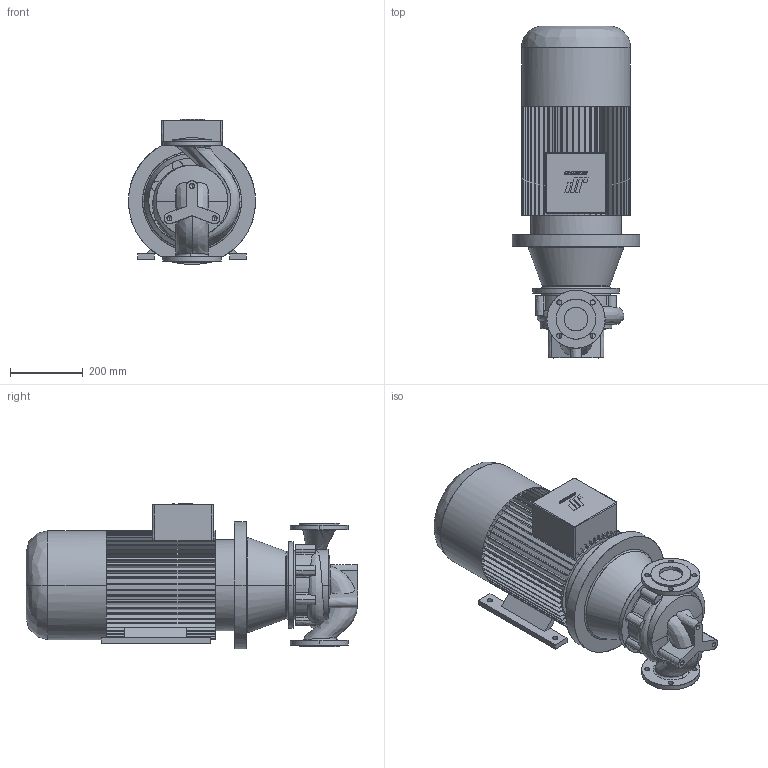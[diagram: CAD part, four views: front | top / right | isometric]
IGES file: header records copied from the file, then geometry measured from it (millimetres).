
Start section: CombiLine
Global section: file name: CLB_65-160_IEC160L.igs; native system:  By UGS Corp.; preprocessor: XPlus GENERIC/IGES 3.0; author: Stageplaats; organization: Johnson Pump Water B.V.; date: 20070713.133548; units: millimetre
Bounding box: 350 x 913.5 x 399.56 mm (x, y, z)
Surface area: 1704408.8 mm2 (no closed solid volume)
Topology: 0 solids, 0 shells, 579 faces, 3512 edges, 3506 vertices
Faces by surface type: bspline 579
